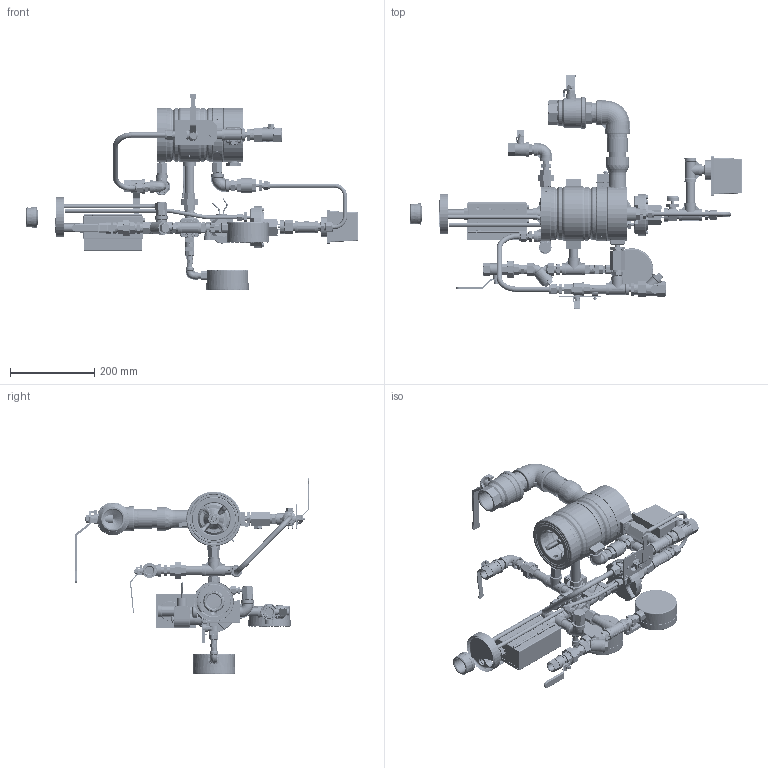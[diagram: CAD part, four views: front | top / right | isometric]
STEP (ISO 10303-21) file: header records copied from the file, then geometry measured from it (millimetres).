
FILE_DESCRIPTION(/* description */ (''),/* implementation_level */ '2;1');
FILE_NAME(/* name */ '799DX-04K01 FM Trim 3in.stp',/* time_stamp */ '2024-02-11T15:03:39+02:00',/* author */ ('alex'),/* organization */ (''),/* preprocessor_version */ 'ST-DEVELOPER v20',/* originating_system */ 'Autodesk Inventor 2024',/* authorisation */ '');
FILE_SCHEMA (('AUTOMOTIVE_DESIGN { 1 0 10303 214 3 1 1 }'));
Products named in the file (1): 799DX-04K01 FM Trim 3in STEP
Bounding box: 789.4 x 558.3 x 467.45 mm (x, y, z)
Volume: 4438717.3 mm3; surface area: 1308639.7 mm2
Topology: 13 solids, 63 shells, 5515 faces, 13510 edges, 8470 vertices
Faces by surface type: plane 2640, cone 1175, cylinder 1168, bspline 342, torus 176, sphere 14
Full cylindrical faces by diameter (mm): 1 x2, 1.5 x4, 2 x5, 3 x15, 3.242 x4, 3.7 x2, 4 x20, 4.134 x2, 4.2 x4, 4.7 x1, 4.8 x1, 4.978 x4, 5 x33, 5.08 x4, 5.2 x10, 5.3 x1, 5.5 x4, 6 x6, 6.2 x1, 6.33 x4, 6.35 x2, 6.4 x4, 6.5 x7, 7 x13, 7.036 x8, 7.3 x1, 7.515 x4, 7.6 x1, 8 x5, 8.1 x1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
Entity records: 196658 total; most frequent: CARTESIAN_POINT 65906, ORIENTED_EDGE 26866, DIRECTION 25390, EDGE_CURVE 13433, AXIS2_PLACEMENT_3D 9628, VERTEX_POINT 8429, EDGE_LOOP 6222, LINE 6134
